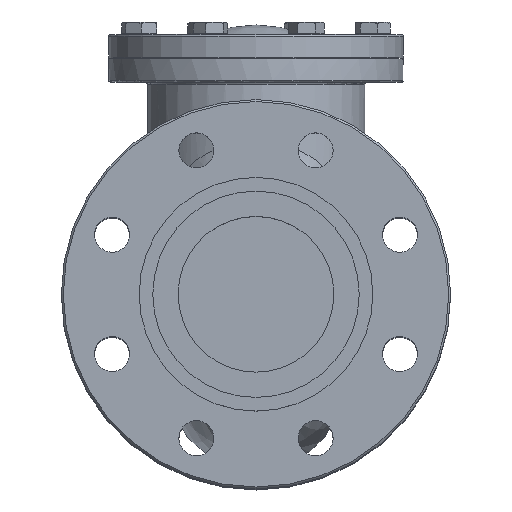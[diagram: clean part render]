
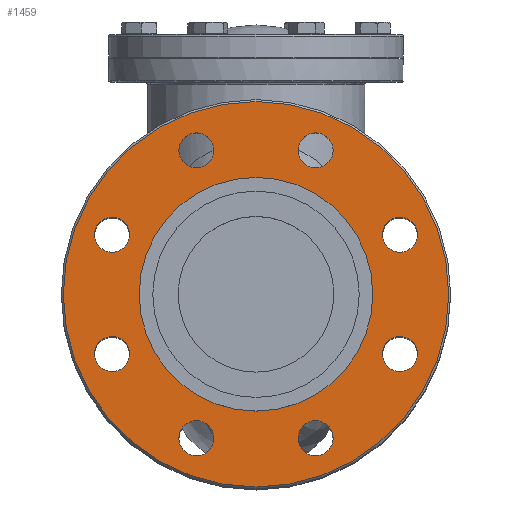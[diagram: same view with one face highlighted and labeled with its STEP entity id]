
A CAD part, top view. The second image highlights one B-rep face of the part: STEP entity #1459.
In plain terms, the highlighted planar face has unit normal (0, 0, 1).
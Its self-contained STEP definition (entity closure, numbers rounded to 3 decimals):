
#1459=ADVANCED_FACE('',(#5621,#5623,#5625,#5627,#5629,#5631,#5633,#5635,#5637,#5639),
#5641,.F.);
#5621=FACE_BOUND('',#5622,.T.);
#5622=EDGE_LOOP('',(#8404));
#5623=FACE_BOUND('',#5624,.T.);
#5624=EDGE_LOOP('',(#8405));
#5625=FACE_BOUND('',#5626,.T.);
#5626=EDGE_LOOP('',(#8406));
#5627=FACE_BOUND('',#5628,.T.);
#5628=EDGE_LOOP('',(#8407));
#5629=FACE_BOUND('',#5630,.T.);
#5630=EDGE_LOOP('',(#8408));
#5631=FACE_BOUND('',#5632,.T.);
#5632=EDGE_LOOP('',(#8409));
#5633=FACE_BOUND('',#5634,.T.);
#5634=EDGE_LOOP('',(#8410));
#5635=FACE_BOUND('',#5636,.T.);
#5636=EDGE_LOOP('',(#8411));
#5637=FACE_BOUND('',#5638,.T.);
#5638=EDGE_LOOP('',(#8412));
#5639=FACE_BOUND('',#5640,.T.);
#5640=EDGE_LOOP('',(#8413));
#5641=PLANE('',#5642);
#5642=AXIS2_PLACEMENT_3D('',#5643,#5644,#5645);
#5643=CARTESIAN_POINT('',(0.,0.,150.5));
#5644=DIRECTION('',(0.,0.,-1.));
#5645=DIRECTION('',(0.,1.,0.));
#8404=ORIENTED_EDGE('',*,*,#10011,.F.);
#8405=ORIENTED_EDGE('',*,*,#10012,.T.);
#8406=ORIENTED_EDGE('',*,*,#9990,.F.);
#8407=ORIENTED_EDGE('',*,*,#9991,.F.);
#8408=ORIENTED_EDGE('',*,*,#9992,.F.);
#8409=ORIENTED_EDGE('',*,*,#9993,.F.);
#8410=ORIENTED_EDGE('',*,*,#9994,.F.);
#8411=ORIENTED_EDGE('',*,*,#9995,.F.);
#8412=ORIENTED_EDGE('',*,*,#9996,.F.);
#8413=ORIENTED_EDGE('',*,*,#9997,.F.);
#9990=EDGE_CURVE('',#11167,#11167,#11168,.T.);
#9991=EDGE_CURVE('',#11169,#11169,#11170,.T.);
#9992=EDGE_CURVE('',#11171,#11171,#11172,.T.);
#9993=EDGE_CURVE('',#11173,#11173,#11174,.T.);
#9994=EDGE_CURVE('',#11175,#11175,#11176,.T.);
#9995=EDGE_CURVE('',#11177,#11177,#11178,.T.);
#9996=EDGE_CURVE('',#11179,#11179,#11180,.T.);
#9997=EDGE_CURVE('',#11181,#11181,#11182,.T.);
#10011=EDGE_CURVE('',#11209,#11209,#11210,.F.);
#10012=EDGE_CURVE('',#11211,#11211,#11212,.T.);
#11167=VERTEX_POINT('',#19239);
#11168=CIRCLE('',#19240,9.);
#11169=VERTEX_POINT('',#19244);
#11170=CIRCLE('',#19245,9.);
#11171=VERTEX_POINT('',#19249);
#11172=CIRCLE('',#19250,9.);
#11173=VERTEX_POINT('',#19254);
#11174=CIRCLE('',#19255,9.);
#11175=VERTEX_POINT('',#19259);
#11176=CIRCLE('',#19260,9.);
#11177=VERTEX_POINT('',#19264);
#11178=CIRCLE('',#19265,9.);
#11179=VERTEX_POINT('',#19269);
#11180=CIRCLE('',#19270,9.);
#11181=VERTEX_POINT('',#19274);
#11182=CIRCLE('',#19275,9.);
#11209=VERTEX_POINT('',#19344);
#11210=CIRCLE('',#19345,99.);
#11211=VERTEX_POINT('',#19349);
#11212=CIRCLE('',#19350,60.);
#19239=CARTESIAN_POINT('',(39.615,-73.91,150.5));
#19240=AXIS2_PLACEMENT_3D('',#19241,#19242,#19243);
#19241=CARTESIAN_POINT('',(30.615,-73.91,150.5));
#19242=DIRECTION('',(0.,0.,1.));
#19243=DIRECTION('',(1.,0.,0.));
#19244=CARTESIAN_POINT('',(-21.615,-73.91,150.5));
#19245=AXIS2_PLACEMENT_3D('',#19246,#19247,#19248);
#19246=CARTESIAN_POINT('',(-30.615,-73.91,150.5));
#19247=DIRECTION('',(0.,0.,1.));
#19248=DIRECTION('',(1.,0.,0.));
#19249=CARTESIAN_POINT('',(-64.91,-30.615,150.5));
#19250=AXIS2_PLACEMENT_3D('',#19251,#19252,#19253);
#19251=CARTESIAN_POINT('',(-73.91,-30.615,150.5));
#19252=DIRECTION('',(0.,0.,1.));
#19253=DIRECTION('',(1.,0.,0.));
#19254=CARTESIAN_POINT('',(-64.91,30.615,150.5));
#19255=AXIS2_PLACEMENT_3D('',#19256,#19257,#19258);
#19256=CARTESIAN_POINT('',(-73.91,30.615,150.5));
#19257=DIRECTION('',(0.,0.,1.));
#19258=DIRECTION('',(1.,0.,0.));
#19259=CARTESIAN_POINT('',(-21.615,73.91,150.5));
#19260=AXIS2_PLACEMENT_3D('',#19261,#19262,#19263);
#19261=CARTESIAN_POINT('',(-30.615,73.91,150.5));
#19262=DIRECTION('',(0.,0.,1.));
#19263=DIRECTION('',(1.,0.,0.));
#19264=CARTESIAN_POINT('',(39.615,73.91,150.5));
#19265=AXIS2_PLACEMENT_3D('',#19266,#19267,#19268);
#19266=CARTESIAN_POINT('',(30.615,73.91,150.5));
#19267=DIRECTION('',(0.,0.,1.));
#19268=DIRECTION('',(1.,0.,0.));
#19269=CARTESIAN_POINT('',(82.91,30.615,150.5));
#19270=AXIS2_PLACEMENT_3D('',#19271,#19272,#19273);
#19271=CARTESIAN_POINT('',(73.91,30.615,150.5));
#19272=DIRECTION('',(0.,0.,1.));
#19273=DIRECTION('',(1.,0.,0.));
#19274=CARTESIAN_POINT('',(82.91,-30.615,150.5));
#19275=AXIS2_PLACEMENT_3D('',#19276,#19277,#19278);
#19276=CARTESIAN_POINT('',(73.91,-30.615,150.5));
#19277=DIRECTION('',(0.,0.,1.));
#19278=DIRECTION('',(1.,0.,0.));
#19344=CARTESIAN_POINT('',(-99.,0.,150.5));
#19345=AXIS2_PLACEMENT_3D('',#19346,#19347,#19348);
#19346=CARTESIAN_POINT('',(0.,0.,150.5));
#19347=DIRECTION('',(0.,0.,1.));
#19348=DIRECTION('',(-1.,0.,0.));
#19349=CARTESIAN_POINT('',(0.,60.,150.5));
#19350=AXIS2_PLACEMENT_3D('',#19351,#19352,#19353);
#19351=CARTESIAN_POINT('',(0.,0.,150.5));
#19352=DIRECTION('',(0.,0.,-1.));
#19353=DIRECTION('',(0.,1.,0.));
